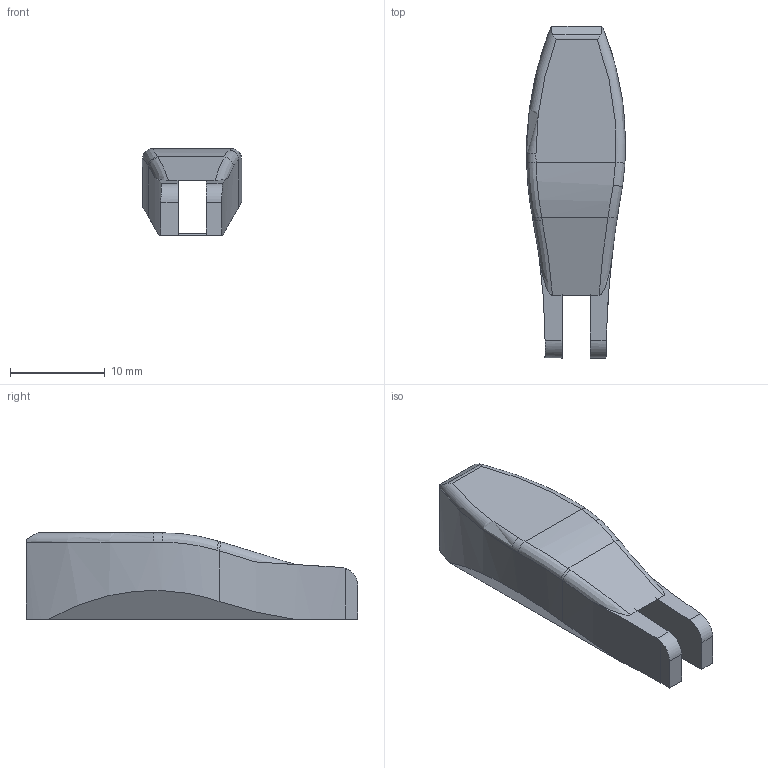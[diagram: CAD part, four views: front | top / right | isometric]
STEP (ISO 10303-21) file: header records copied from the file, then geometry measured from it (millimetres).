
FILE_DESCRIPTION (( 'STEP AP214' ), '1' );
FILE_NAME ('B1-leg-calf-R.step', '2023-08-03T13:48:26', ( '' ), ( '' ), 'SwSTEP 2.0', 'SolidWorks 2020', '' );
FILE_SCHEMA (( 'AUTOMOTIVE_DESIGN' ));
Length unit declared in the file: millimetre
Products named in the file (1): B1-leg-calf-R
Bounding box: 10.44 x 34.99 x 9.1 mm (x, y, z)
Volume: 1591.4 mm3; surface area: 1530.2 mm2
Topology: 1 solids, 1 shells, 34 faces, 92 edges, 59 vertices
Faces by surface type: plane 15, cylinder 10, bspline 6, torus 3
Entity records: 1227 total; most frequent: CARTESIAN_POINT 416, ORIENTED_EDGE 184, DIRECTION 138, EDGE_CURVE 92, VERTEX_POINT 59, AXIS2_PLACEMENT_3D 49, VECTOR 40, LINE 40
